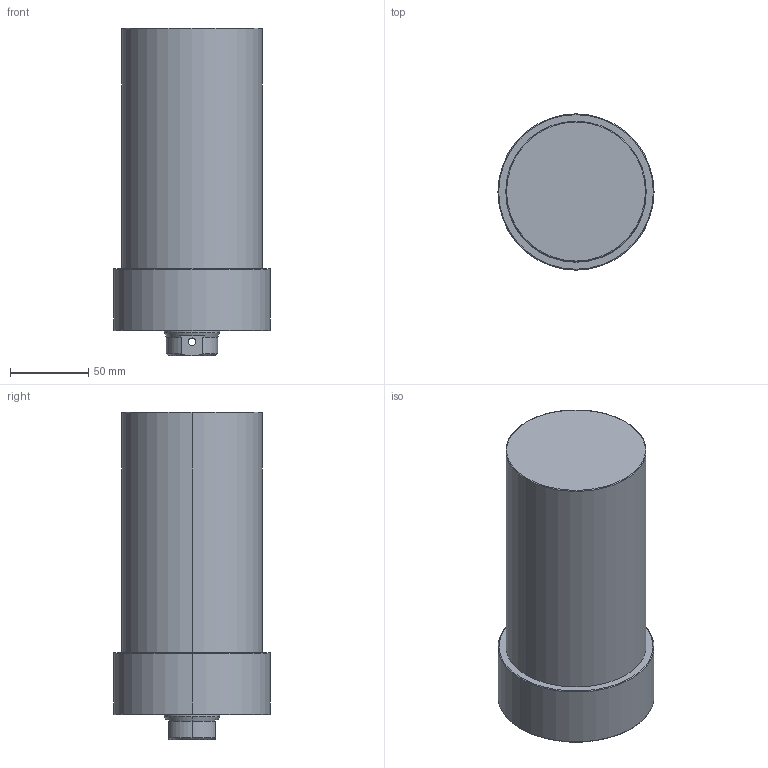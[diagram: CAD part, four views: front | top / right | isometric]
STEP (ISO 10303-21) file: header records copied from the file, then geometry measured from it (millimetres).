
FILE_DESCRIPTION (( 'STEP AP203' ), '1' );
FILE_NAME ('CLLU-090GB-110.STEP', '2020-01-13T05:53:19', ( '' ), ( '' ), 'SwSTEP 2.0', 'SolidWorks 2015', '' );
FILE_SCHEMA (( 'CONFIG_CONTROL_DESIGN' ));
Length unit declared in the file: millimetre
Products named in the file (1): CLLU-090GB-110
Bounding box: 100 x 100 x 210 mm (x, y, z)
Volume: 1287353.9 mm3; surface area: 79142.6 mm2
Topology: 1 solids, 1 shells, 68 faces, 155 edges, 88 vertices
Faces by surface type: cylinder 27, cone 25, plane 10, torus 6
Entity records: 2061 total; most frequent: CARTESIAN_POINT 462, DIRECTION 350, ORIENTED_EDGE 290, AXIS2_PLACEMENT_3D 148, EDGE_CURVE 145, VERTEX_POINT 88, EDGE_LOOP 81, CIRCLE 79
